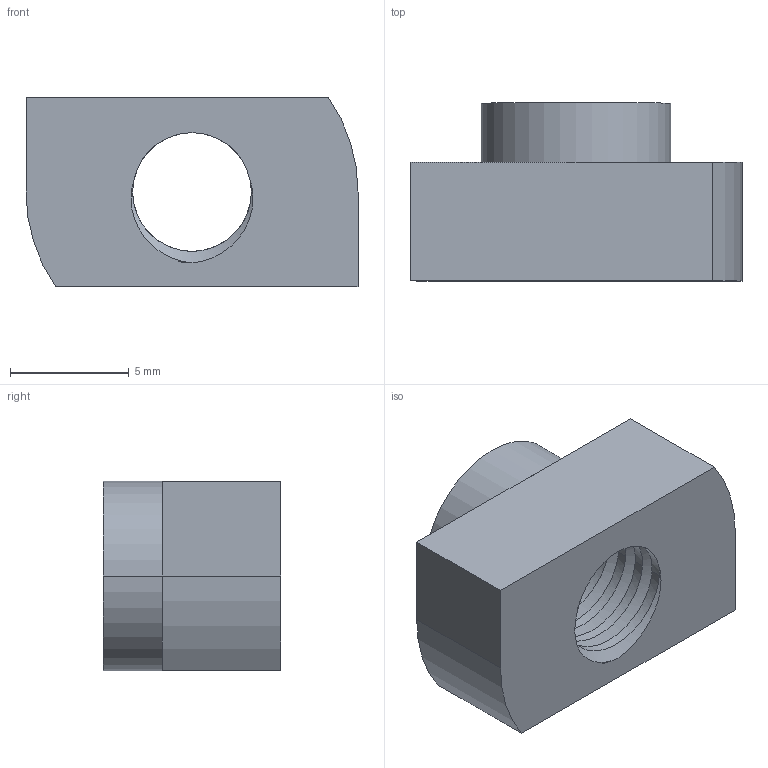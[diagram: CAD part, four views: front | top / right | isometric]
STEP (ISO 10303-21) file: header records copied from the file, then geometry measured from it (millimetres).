
FILE_DESCRIPTION (( 'STEP AP203' ), '1' );
FILE_NAME ('122-CE-TN-40G.STEP', '2015-07-09T08:55:32', ( '' ), ( '' ), 'SwSTEP 2.0', 'SolidWorks 2013', '' );
FILE_SCHEMA (( 'CONFIG_CONTROL_DESIGN' ));
Length unit declared in the file: millimetre
Products named in the file (1): 122-CE-TN-40G
Bounding box: 14 x 7.5 x 8 mm (x, y, z)
Volume: 504.9 mm3; surface area: 644.3 mm2
Topology: 1 solids, 1 shells, 30 faces, 82 edges, 54 vertices
Faces by surface type: cylinder 20, plane 8, bspline 2
Entity records: 2042 total; most frequent: CARTESIAN_POINT 1301, ORIENTED_EDGE 164, DIRECTION 115, EDGE_CURVE 82, VERTEX_POINT 54, AXIS2_PLACEMENT_3D 41, VECTOR 33, LINE 33
